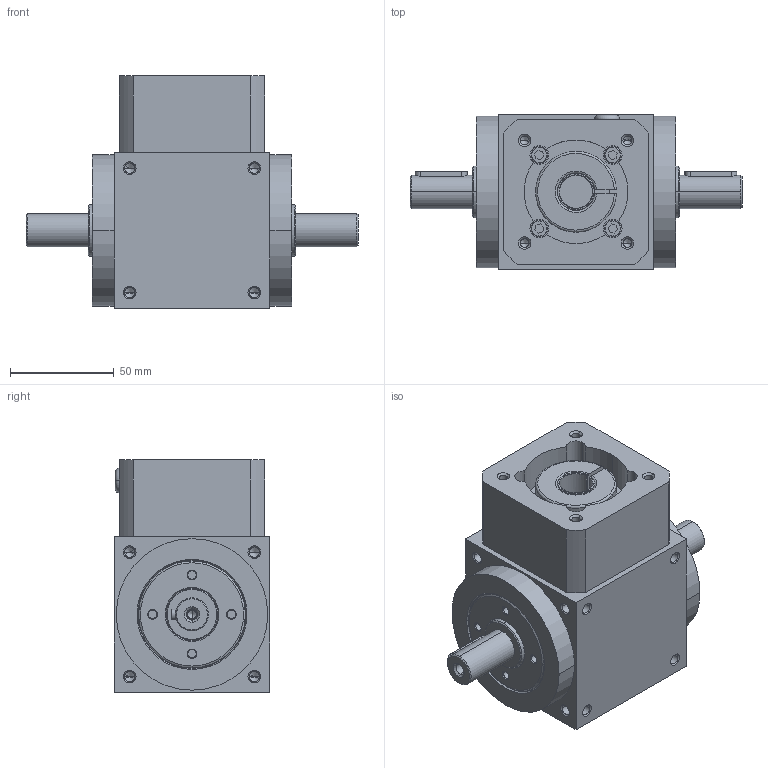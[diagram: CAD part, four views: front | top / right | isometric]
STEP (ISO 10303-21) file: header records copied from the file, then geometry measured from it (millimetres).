
FILE_DESCRIPTION (( 'STEP AP203' ), '1' );
FILE_NAME ('LAT75-FL-P2-5070M5.STEP', '2024-11-15T08:53:28', ( '微软用户' ), ( '微软中国' ), 'SwSTEP 2.0', 'SolidWorks 2022', '' );
FILE_SCHEMA (( 'CONFIG_CONTROL_DESIGN' ));
Length unit declared in the file: millimetre
Products named in the file (1): LAT75-FL-P2-5070M5
Bounding box: 160 x 75 x 112 mm (x, y, z)
Volume: 665927.1 mm3; surface area: 107932.1 mm2
Topology: 9 solids, 9 shells, 422 faces, 1025 edges, 595 vertices
Faces by surface type: cylinder 177, cone 137, plane 92, torus 16
Entity records: 12155 total; most frequent: CARTESIAN_POINT 2497, DIRECTION 2094, ORIENTED_EDGE 1946, EDGE_CURVE 973, AXIS2_PLACEMENT_3D 822, VERTEX_POINT 595, EDGE_LOOP 488, VECTOR 450
